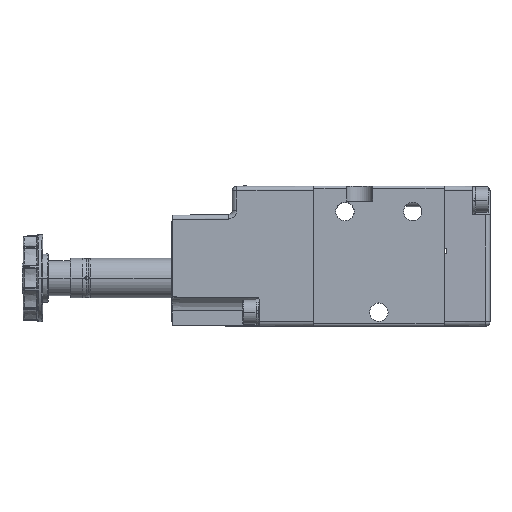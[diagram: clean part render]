
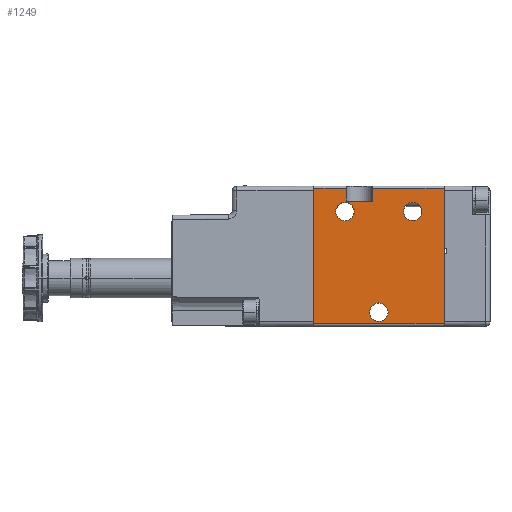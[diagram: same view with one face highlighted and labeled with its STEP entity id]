
A CAD part, top view. The second image highlights one B-rep face of the part: STEP entity #1249.
In plain terms, the highlighted planar face has unit normal (0, 0, 1).
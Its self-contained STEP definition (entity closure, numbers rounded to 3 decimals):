
#1249 = ADVANCED_FACE ( 'NONE', ( #3593, #3597, #3594, #3592 ), #6185, .F. ) ;
#1683 = CARTESIAN_POINT ( 'NONE',  ( -5.65, 9., 11. ) ) ;
#1684 = CARTESIAN_POINT ( 'NONE',  ( 5.65, 9., 11. ) ) ;
#1689 = CARTESIAN_POINT ( 'NONE',  ( 9.85, 9., 11. ) ) ;
#1694 = CARTESIAN_POINT ( 'NONE',  ( -9.85, 9., 11. ) ) ;
#1696 = CARTESIAN_POINT ( 'NONE',  ( 2.1, -14., 11. ) ) ;
#1736 = CARTESIAN_POINT ( 'NONE',  ( -2.1, -14., 11. ) ) ;
#3592 = FACE_OUTER_BOUND ( 'NONE', #9494, .T. ) ;
#3593 = FACE_BOUND ( 'NONE', #9565, .T. ) ;
#3594 = FACE_BOUND ( 'NONE', #9498, .T. ) ;
#3597 = FACE_BOUND ( 'NONE', #9587, .T. ) ;
#6185 = PLANE ( 'NONE',  #18771 ) ;
#6194 = CARTESIAN_POINT ( 'NONE',  ( 53.733, -17.2, 11. ) ) ;
#6195 = DIRECTION ( 'NONE',  ( 0., 0., -1. ) ) ;
#6196 = DIRECTION ( 'NONE',  ( -1., 0., 0. ) ) ;
#9494 = EDGE_LOOP ( 'NONE', ( #23802, #23783, #23767, #23738, #23740, #23758, #23744, #23793 ) ) ;
#9498 = EDGE_LOOP ( 'NONE', ( #23799, #23787 ) ) ;
#9539 = VERTEX_POINT ( 'NONE', #1683 ) ;
#9540 = VERTEX_POINT ( 'NONE', #1684 ) ;
#9545 = VERTEX_POINT ( 'NONE', #1689 ) ;
#9550 = VERTEX_POINT ( 'NONE', #1694 ) ;
#9552 = VERTEX_POINT ( 'NONE', #1696 ) ;
#9565 = EDGE_LOOP ( 'NONE', ( #23795, #23723 ) ) ;
#9587 = EDGE_LOOP ( 'NONE', ( #23759, #23819 ) ) ;
#9616 = VERTEX_POINT ( 'NONE', #1736 ) ;
#12498 = CIRCLE ( 'NONE', #19474, 2.1 ) ;
#12504 = CIRCLE ( 'NONE', #19477, 2.1 ) ;
#12546 = LINE ( 'NONE', #21353, #12552 ) ;
#12552 = VECTOR ( 'NONE', #21359, 1000. ) ;
#12553 = CIRCLE ( 'NONE', #19482, 2.1 ) ;
#12636 = LINE ( 'NONE', #21539, #12638 ) ;
#12638 = VECTOR ( 'NONE', #21533, 1000. ) ;
#12655 = LINE ( 'NONE', #21589, #12659 ) ;
#12659 = VECTOR ( 'NONE', #21590, 1000. ) ;
#12675 = LINE ( 'NONE', #21614, #12678 ) ;
#12678 = VECTOR ( 'NONE', #21615, 1000. ) ;
#12713 = CIRCLE ( 'NONE', #19524, 2.1 ) ;
#12760 = LINE ( 'NONE', #21773, #12762 ) ;
#12762 = VECTOR ( 'NONE', #21774, 1000. ) ;
#12778 = LINE ( 'NONE', #21821, #12785 ) ;
#12785 = VECTOR ( 'NONE', #21822, 1000. ) ;
#12788 = LINE ( 'NONE', #21839, #12798 ) ;
#12798 = VECTOR ( 'NONE', #21840, 1000. ) ;
#12837 = LINE ( 'NONE', #21885, #12842 ) ;
#12840 = CIRCLE ( 'NONE', #26769, 2.1 ) ;
#12842 = VECTOR ( 'NONE', #21886, 1000. ) ;
#12844 = CIRCLE ( 'NONE', #26772, 2.1 ) ;
#18771 = AXIS2_PLACEMENT_3D ( 'NONE', #6194, #6195, #6196 ) ;
#19474 = AXIS2_PLACEMENT_3D ( 'NONE', #21303, #21304, #21305 ) ;
#19477 = AXIS2_PLACEMENT_3D ( 'NONE', #21316, #21317, #21318 ) ;
#19482 = AXIS2_PLACEMENT_3D ( 'NONE', #21387, #21388, #21389 ) ;
#19524 = AXIS2_PLACEMENT_3D ( 'NONE', #21692, #21693, #21694 ) ;
#20679 = EDGE_CURVE ( 'NONE', #9552, #9616, #12498, .T. ) ;
#20683 = EDGE_CURVE ( 'NONE', #9539, #9550, #12504, .T. ) ;
#20702 = EDGE_CURVE ( 'NONE', #28818, #28821, #12546, .T. ) ;
#20707 = EDGE_CURVE ( 'NONE', #9545, #9540, #12553, .T. ) ;
#20750 = EDGE_CURVE ( 'NONE', #28818, #28824, #12636, .T. ) ;
#20761 = EDGE_CURVE ( 'NONE', #28824, #28823, #12655, .T. ) ;
#20771 = EDGE_CURVE ( 'NONE', #28814, #28811, #12675, .T. ) ;
#20803 = EDGE_CURVE ( 'NONE', #9540, #9545, #12713, .T. ) ;
#20821 = EDGE_CURVE ( 'NONE', #28823, #28814, #12760, .T. ) ;
#20836 = EDGE_CURVE ( 'NONE', #28821, #28853, #12778, .T. ) ;
#20843 = EDGE_CURVE ( 'NONE', #28828, #28811, #12788, .T. ) ;
#20863 = EDGE_CURVE ( 'NONE', #28828, #28853, #12837, .T. ) ;
#20864 = EDGE_CURVE ( 'NONE', #9616, #9552, #12840, .T. ) ;
#20868 = EDGE_CURVE ( 'NONE', #9550, #9539, #12844, .T. ) ;
#21303 = CARTESIAN_POINT ( 'NONE',  ( 0., -14., 11. ) ) ;
#21304 = DIRECTION ( 'NONE',  ( 0., 0., -1. ) ) ;
#21305 = DIRECTION ( 'NONE',  ( -1., 0., 0. ) ) ;
#21316 = CARTESIAN_POINT ( 'NONE',  ( -7.75, 9., 11. ) ) ;
#21317 = DIRECTION ( 'NONE',  ( 0., 0., -1. ) ) ;
#21318 = DIRECTION ( 'NONE',  ( -1., 0., 0. ) ) ;
#21353 = CARTESIAN_POINT ( 'NONE',  ( -7.4, 11.4, 11. ) ) ;
#21359 = DIRECTION ( 'NONE',  ( 1., 0., 0. ) ) ;
#21387 = CARTESIAN_POINT ( 'NONE',  ( 7.75, 9., 11. ) ) ;
#21388 = DIRECTION ( 'NONE',  ( 0., 0., -1. ) ) ;
#21389 = DIRECTION ( 'NONE',  ( -1., 0., 0. ) ) ;
#21533 = DIRECTION ( 'NONE',  ( 0., 1., 0. ) ) ;
#21539 = CARTESIAN_POINT ( 'NONE',  ( -7.4, 11.4, 11. ) ) ;
#21589 = CARTESIAN_POINT ( 'NONE',  ( 53.733, 14.3, 11. ) ) ;
#21590 = DIRECTION ( 'NONE',  ( -1., 0., 0. ) ) ;
#21614 = CARTESIAN_POINT ( 'NONE',  ( 53.733, -16.7, 11. ) ) ;
#21615 = DIRECTION ( 'NONE',  ( 1., 0., 0. ) ) ;
#21692 = CARTESIAN_POINT ( 'NONE',  ( 7.75, 9., 11. ) ) ;
#21693 = DIRECTION ( 'NONE',  ( 0., 0., -1. ) ) ;
#21694 = DIRECTION ( 'NONE',  ( -1., 0., 0. ) ) ;
#21773 = CARTESIAN_POINT ( 'NONE',  ( -14.9, -17.2, 11. ) ) ;
#21774 = DIRECTION ( 'NONE',  ( 0., -1., 0. ) ) ;
#21821 = CARTESIAN_POINT ( 'NONE',  ( -1.4, 11.4, 11. ) ) ;
#21822 = DIRECTION ( 'NONE',  ( 0., 1., 0. ) ) ;
#21839 = CARTESIAN_POINT ( 'NONE',  ( 14.9, -17.2, 11. ) ) ;
#21840 = DIRECTION ( 'NONE',  ( 0., -1., 0. ) ) ;
#21885 = CARTESIAN_POINT ( 'NONE',  ( 53.733, 14.3, 11. ) ) ;
#21886 = DIRECTION ( 'NONE',  ( -1., 0., 0. ) ) ;
#21887 = CARTESIAN_POINT ( 'NONE',  ( 0., -14., 11. ) ) ;
#21888 = DIRECTION ( 'NONE',  ( 0., 0., -1. ) ) ;
#21889 = DIRECTION ( 'NONE',  ( -1., 0., 0. ) ) ;
#21908 = CARTESIAN_POINT ( 'NONE',  ( -7.75, 9., 11. ) ) ;
#21909 = DIRECTION ( 'NONE',  ( 0., 0., -1. ) ) ;
#21910 = DIRECTION ( 'NONE',  ( -1., 0., 0. ) ) ;
#23723 = ORIENTED_EDGE ( 'NONE', *, *, #20679, .T. ) ;
#23738 = ORIENTED_EDGE ( 'NONE', *, *, #20821, .T. ) ;
#23740 = ORIENTED_EDGE ( 'NONE', *, *, #20771, .T. ) ;
#23744 = ORIENTED_EDGE ( 'NONE', *, *, #20863, .T. ) ;
#23758 = ORIENTED_EDGE ( 'NONE', *, *, #20843, .F. ) ;
#23759 = ORIENTED_EDGE ( 'NONE', *, *, #20868, .T. ) ;
#23767 = ORIENTED_EDGE ( 'NONE', *, *, #20761, .T. ) ;
#23783 = ORIENTED_EDGE ( 'NONE', *, *, #20750, .T. ) ;
#23787 = ORIENTED_EDGE ( 'NONE', *, *, #20707, .T. ) ;
#23793 = ORIENTED_EDGE ( 'NONE', *, *, #20836, .F. ) ;
#23795 = ORIENTED_EDGE ( 'NONE', *, *, #20864, .T. ) ;
#23799 = ORIENTED_EDGE ( 'NONE', *, *, #20803, .T. ) ;
#23802 = ORIENTED_EDGE ( 'NONE', *, *, #20702, .F. ) ;
#23819 = ORIENTED_EDGE ( 'NONE', *, *, #20683, .T. ) ;
#26769 = AXIS2_PLACEMENT_3D ( 'NONE', #21887, #21888, #21889 ) ;
#26772 = AXIS2_PLACEMENT_3D ( 'NONE', #21908, #21909, #21910 ) ;
#28811 = VERTEX_POINT ( 'NONE', #29112 ) ;
#28814 = VERTEX_POINT ( 'NONE', #29118 ) ;
#28818 = VERTEX_POINT ( 'NONE', #29120 ) ;
#28821 = VERTEX_POINT ( 'NONE', #29123 ) ;
#28823 = VERTEX_POINT ( 'NONE', #29125 ) ;
#28824 = VERTEX_POINT ( 'NONE', #29126 ) ;
#28828 = VERTEX_POINT ( 'NONE', #29130 ) ;
#28853 = VERTEX_POINT ( 'NONE', #29155 ) ;
#29112 = CARTESIAN_POINT ( 'NONE',  ( 14.9, -16.7, 11. ) ) ;
#29118 = CARTESIAN_POINT ( 'NONE',  ( -14.9, -16.7, 11. ) ) ;
#29120 = CARTESIAN_POINT ( 'NONE',  ( -7.4, 11.4, 11. ) ) ;
#29123 = CARTESIAN_POINT ( 'NONE',  ( -1.4, 11.4, 11. ) ) ;
#29125 = CARTESIAN_POINT ( 'NONE',  ( -14.9, 14.3, 11. ) ) ;
#29126 = CARTESIAN_POINT ( 'NONE',  ( -7.4, 14.3, 11. ) ) ;
#29130 = CARTESIAN_POINT ( 'NONE',  ( 14.9, 14.3, 11. ) ) ;
#29155 = CARTESIAN_POINT ( 'NONE',  ( -1.4, 14.3, 11. ) ) ;
